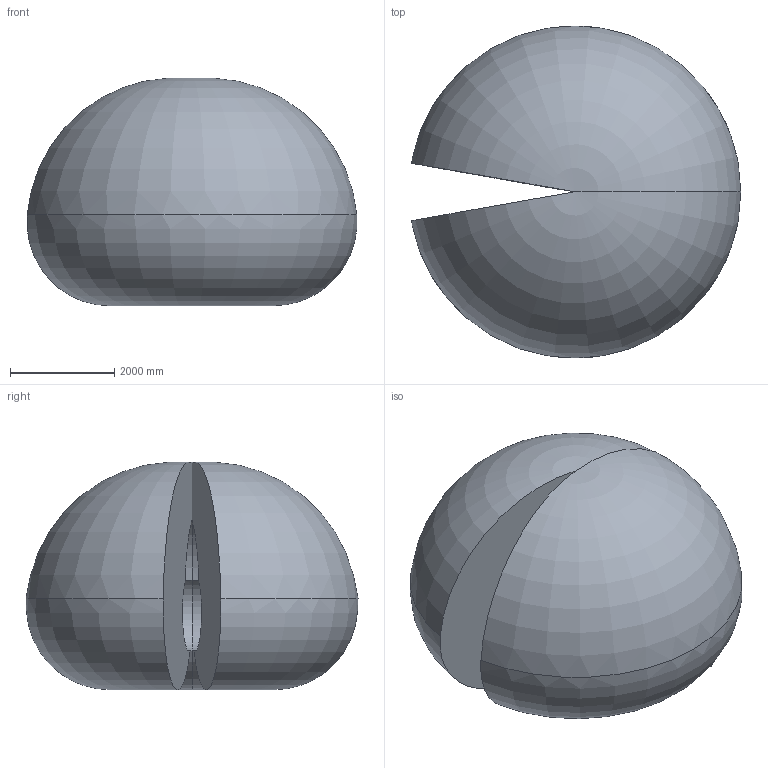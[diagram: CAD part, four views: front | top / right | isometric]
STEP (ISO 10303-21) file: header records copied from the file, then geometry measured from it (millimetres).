
FILE_DESCRIPTION (( 'STEP AP214' ), '1' );
FILE_NAME ('IRB6700_320_Working_space.STEP', '2016-01-27T12:20:32', ( 'ABB' ), ( 'ABB' ), 'SwSTEP 2.0', 'SolidWorks 2014', '' );
FILE_SCHEMA (( 'AUTOMOTIVE_DESIGN' ));
Length unit declared in the file: millimetre
Products named in the file (1): IRB6700_320_Working_space
Bounding box: 6335.98 x 6382.12 x 4371.75 mm (x, y, z)
Volume: 90802882666.5 mm3; surface area: 135737738.1 mm2
Topology: 1 solids, 1 shells, 10 faces, 23 edges, 11 vertices
Faces by surface type: torus 8, plane 2
Entity records: 295 total; most frequent: DIRECTION 59, CARTESIAN_POINT 41, ORIENTED_EDGE 38, AXIS2_PLACEMENT_3D 29, EDGE_CURVE 19, CIRCLE 18, VERTEX_POINT 11, FACE_OUTER_BOUND 10
